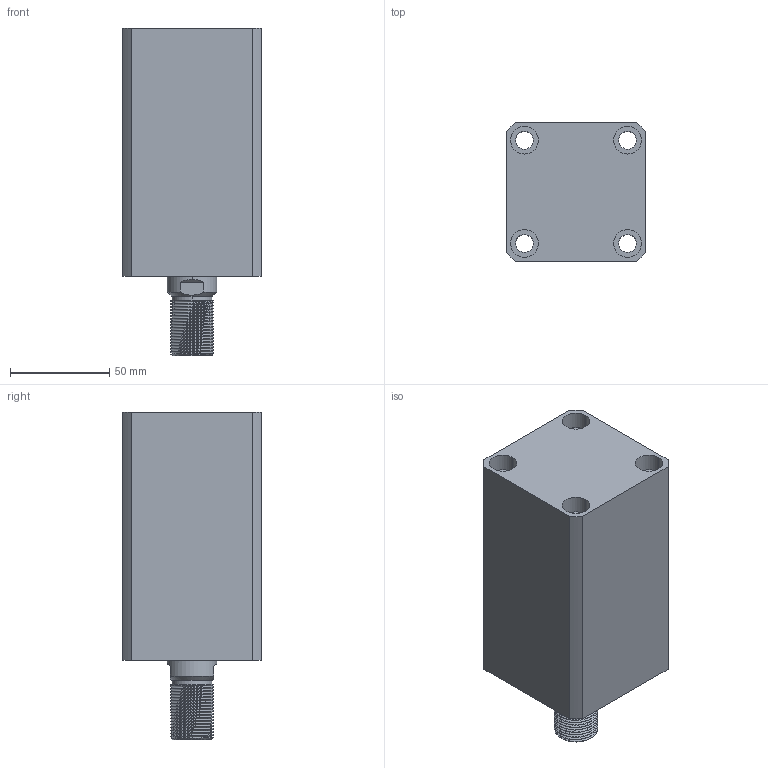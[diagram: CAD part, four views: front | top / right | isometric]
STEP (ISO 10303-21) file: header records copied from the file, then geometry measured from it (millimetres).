
FILE_DESCRIPTION (( 'STEP AP214' ), '1' );
FILE_NAME ('chtb-sd40x70w_asm.STEP', '2018-06-08T05:50:52', ( 'Windows' ), ( 'Microsoft' ), 'SwSTEP 2.0', 'SolidWorks 2015', '' );
FILE_SCHEMA (( 'AUTOMOTIVE_DESIGN' ));
Length unit declared in the file: millimetre
Products named in the file (4): chtb-sd40x70w_asm; CHTB-SD40QG; CHTB-SD40X70WHSG; CHTB-SD40X70NBT
Assembly tree (3 placements, depth 2):
  chtb-sd40x70w_asm
    CHTB-SD40X70NBT
    CHTB-SD40X70WHSG
    CHTB-SD40QG
Bounding box: 70 x 70 x 165 mm (x, y, z)
Volume: 524366.8 mm3; surface area: 102976.1 mm2
Topology: 3 solids, 4 shells, 203 faces, 533 edges, 355 vertices
Faces by surface type: cylinder 118, plane 40, bspline 16, cone 15, torus 14
Entity records: 13425 total; most frequent: CARTESIAN_POINT 8554, ORIENTED_EDGE 1054, DIRECTION 914, EDGE_CURVE 527, AXIS2_PLACEMENT_3D 380, VERTEX_POINT 355, EDGE_LOOP 240, ADVANCED_FACE 203
